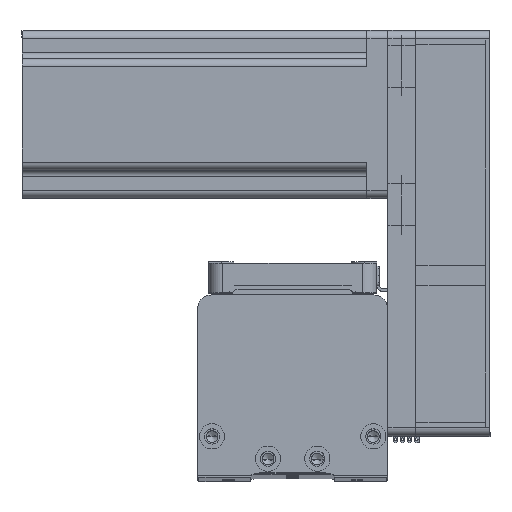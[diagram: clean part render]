
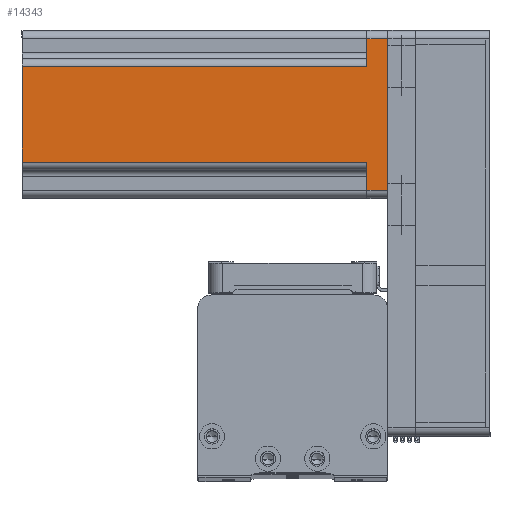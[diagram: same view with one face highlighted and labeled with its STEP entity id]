
A CAD part, top view. The second image highlights one B-rep face of the part: STEP entity #14343.
In plain terms, the highlighted planar face has unit normal (0, 0, 1) as drawn and (0, -1, 0) by its records, which use the part's own axes.
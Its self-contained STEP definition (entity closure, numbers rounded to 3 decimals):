
#86 = VECTOR ( 'NONE', #46142, 1000. ) ;
#328 = ORIENTED_EDGE ( 'NONE', *, *, #47368, .T. ) ;
#638 = EDGE_CURVE ( 'NONE', #12833, #46619, #23091, .T. ) ;
#1113 = ORIENTED_EDGE ( 'NONE', *, *, #11525, .T. ) ;
#3855 = CARTESIAN_POINT ( 'NONE',  ( -27., -30., 7.5 ) ) ;
#4191 = VERTEX_POINT ( 'NONE', #8265 ) ;
#4481 = LINE ( 'NONE', #6051, #24105 ) ;
#6051 = CARTESIAN_POINT ( 'NONE',  ( -17., -30., 130.7 ) ) ;
#7260 = AXIS2_PLACEMENT_3D ( 'NONE', #8868, #34687, #12548 ) ;
#8265 = CARTESIAN_POINT ( 'NONE',  ( -27., -30., 0. ) ) ;
#8395 = VERTEX_POINT ( 'NONE', #13962 ) ;
#8868 = CARTESIAN_POINT ( 'NONE',  ( 30., -30., 130.7 ) ) ;
#9075 = LINE ( 'NONE', #31591, #36240 ) ;
#9487 = DIRECTION ( 'NONE',  ( -1., 0., 0. ) ) ;
#9558 = ORIENTED_EDGE ( 'NONE', *, *, #30586, .F. ) ;
#10594 = CARTESIAN_POINT ( 'NONE',  ( 27., -30., 7.5 ) ) ;
#11525 = EDGE_CURVE ( 'NONE', #19058, #15879, #17052, .T. ) ;
#12166 = CARTESIAN_POINT ( 'NONE',  ( 30., -30., 0. ) ) ;
#12548 = DIRECTION ( 'NONE',  ( -1., 0., 0. ) ) ;
#12833 = VERTEX_POINT ( 'NONE', #38575 ) ;
#12922 = CARTESIAN_POINT ( 'NONE',  ( -27., -30., 130.7 ) ) ;
#13239 = VECTOR ( 'NONE', #39894, 1000. ) ;
#13962 = CARTESIAN_POINT ( 'NONE',  ( -17., -30., 7.5 ) ) ;
#14343 = ADVANCED_FACE ( 'NONE', ( #45266 ), #41914, .F. ) ;
#15335 = CARTESIAN_POINT ( 'NONE',  ( 27., -30., 0. ) ) ;
#15494 = ORIENTED_EDGE ( 'NONE', *, *, #638, .T. ) ;
#15625 = DIRECTION ( 'NONE',  ( 1., 0., 0. ) ) ;
#15875 = DIRECTION ( 'NONE',  ( 1., 0., 0. ) ) ;
#15879 = VERTEX_POINT ( 'NONE', #10594 ) ;
#15905 = CARTESIAN_POINT ( 'NONE',  ( 27., -30., 130.7 ) ) ;
#16297 = CARTESIAN_POINT ( 'NONE',  ( -17., -30., 130.7 ) ) ;
#17052 = LINE ( 'NONE', #15905, #36723 ) ;
#18559 = CARTESIAN_POINT ( 'NONE',  ( 17., -30., 130.7 ) ) ;
#19035 = DIRECTION ( 'NONE',  ( 1., 0., 0. ) ) ;
#19058 = VERTEX_POINT ( 'NONE', #15335 ) ;
#19233 = VERTEX_POINT ( 'NONE', #16297 ) ;
#19417 = CARTESIAN_POINT ( 'NONE',  ( -20., -30., 7.5 ) ) ;
#19778 = VECTOR ( 'NONE', #15625, 1000. ) ;
#20907 = LINE ( 'NONE', #12922, #86 ) ;
#20908 = ORIENTED_EDGE ( 'NONE', *, *, #46945, .T. ) ;
#20934 = LINE ( 'NONE', #19417, #19778 ) ;
#20967 = ORIENTED_EDGE ( 'NONE', *, *, #22318, .T. ) ;
#22318 = EDGE_CURVE ( 'NONE', #32783, #4191, #20907, .T. ) ;
#22335 = ORIENTED_EDGE ( 'NONE', *, *, #38857, .T. ) ;
#23091 = LINE ( 'NONE', #25561, #13239 ) ;
#24105 = VECTOR ( 'NONE', #28155, 1000. ) ;
#25561 = CARTESIAN_POINT ( 'NONE',  ( 17., -30., 130.7 ) ) ;
#28155 = DIRECTION ( 'NONE',  ( 0., 0., -1. ) ) ;
#28739 = ORIENTED_EDGE ( 'NONE', *, *, #36887, .F. ) ;
#30359 = VECTOR ( 'NONE', #19035, 1000. ) ;
#30586 = EDGE_CURVE ( 'NONE', #32783, #8395, #20934, .T. ) ;
#31591 = CARTESIAN_POINT ( 'NONE',  ( 20., -30., 7.5 ) ) ;
#31852 = EDGE_LOOP ( 'NONE', ( #28739, #22335, #9558, #20967, #328, #1113, #20908, #15494 ) ) ;
#32783 = VERTEX_POINT ( 'NONE', #3855 ) ;
#33727 = CARTESIAN_POINT ( 'NONE',  ( 30., -30., 130.7 ) ) ;
#34687 = DIRECTION ( 'NONE',  ( 0., 1., 0. ) ) ;
#36240 = VECTOR ( 'NONE', #9487, 1000. ) ;
#36723 = VECTOR ( 'NONE', #45288, 1000. ) ;
#36887 = EDGE_CURVE ( 'NONE', #19233, #46619, #40162, .T. ) ;
#38575 = CARTESIAN_POINT ( 'NONE',  ( 17., -30., 7.5 ) ) ;
#38857 = EDGE_CURVE ( 'NONE', #19233, #8395, #4481, .T. ) ;
#39894 = DIRECTION ( 'NONE',  ( 0., 0., 1. ) ) ;
#40162 = LINE ( 'NONE', #33727, #30359 ) ;
#41914 = PLANE ( 'NONE',  #7260 ) ;
#44227 = VECTOR ( 'NONE', #15875, 1000. ) ;
#45266 = FACE_OUTER_BOUND ( 'NONE', #31852, .T. ) ;
#45288 = DIRECTION ( 'NONE',  ( 0., 0., 1. ) ) ;
#45387 = LINE ( 'NONE', #12166, #44227 ) ;
#46142 = DIRECTION ( 'NONE',  ( 0., 0., -1. ) ) ;
#46619 = VERTEX_POINT ( 'NONE', #18559 ) ;
#46945 = EDGE_CURVE ( 'NONE', #15879, #12833, #9075, .T. ) ;
#47368 = EDGE_CURVE ( 'NONE', #4191, #19058, #45387, .T. ) ;
